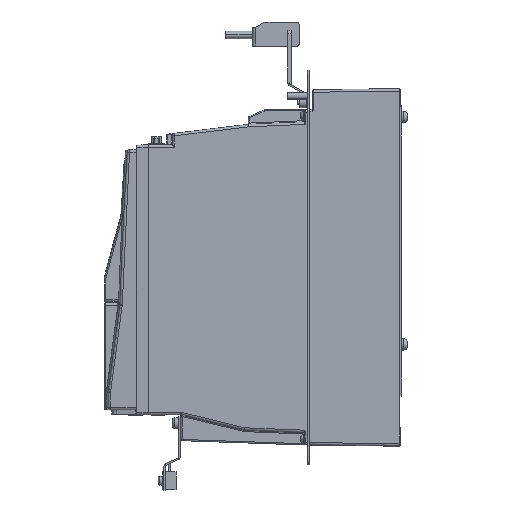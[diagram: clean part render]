
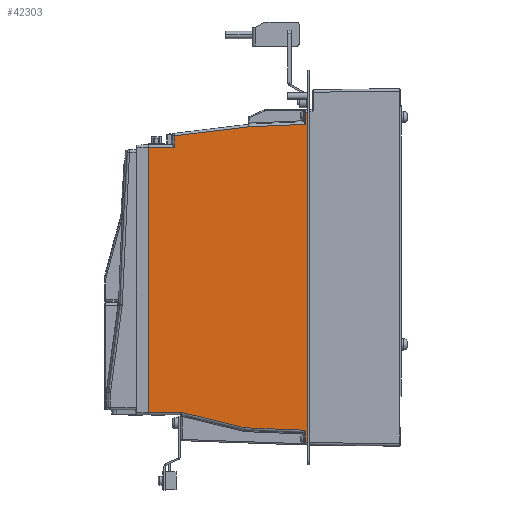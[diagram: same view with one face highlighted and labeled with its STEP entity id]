
A CAD part, left-side view. The second image highlights one B-rep face of the part: STEP entity #42303.
In plain terms, the highlighted planar face has unit normal (-1, 0, 0).
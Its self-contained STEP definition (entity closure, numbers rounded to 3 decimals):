
#39 = DIRECTION ( 'NONE',  ( 0., 0., 1. ) ) ;
#287 = DIRECTION ( 'NONE',  ( 0., 0.999, -0.043 ) ) ;
#477 = ORIENTED_EDGE ( 'NONE', *, *, #32076, .T. ) ;
#907 = CARTESIAN_POINT ( 'NONE',  ( -64., 76.5, -28.98 ) ) ;
#1198 = CARTESIAN_POINT ( 'NONE',  ( -64., 202.8, -289. ) ) ;
#1816 = VECTOR ( 'NONE', #46494, 1000. ) ;
#2430 = ORIENTED_EDGE ( 'NONE', *, *, #48749, .T. ) ;
#2533 = CARTESIAN_POINT ( 'NONE',  ( -64., 202.8, -19. ) ) ;
#2817 = CARTESIAN_POINT ( 'NONE',  ( -64., 76.652, -278.27 ) ) ;
#3994 = CARTESIAN_POINT ( 'NONE',  ( -64., 182.5, -47.5 ) ) ;
#4109 = CARTESIAN_POINT ( 'NONE',  ( -64., 125.536, -275.09 ) ) ;
#4382 = LINE ( 'NONE', #4109, #51022 ) ;
#4495 = CARTESIAN_POINT ( 'NONE',  ( -64., 74.55, 10. ) ) ;
#4876 = LINE ( 'NONE', #43705, #46715 ) ;
#5329 = DIRECTION ( 'NONE',  ( 0., -1., 0. ) ) ;
#6430 = VERTEX_POINT ( 'NONE', #38254 ) ;
#7642 = CARTESIAN_POINT ( 'NONE',  ( -64., 204.2, -262.5 ) ) ;
#8249 = EDGE_CURVE ( 'NONE', #40779, #12690, #40378, .T. ) ;
#8857 = CARTESIAN_POINT ( 'NONE',  ( -64., 76.5, -287. ) ) ;
#9310 = EDGE_CURVE ( 'NONE', #12690, #16473, #16424, .T. ) ;
#9539 = PLANE ( 'NONE',  #42778 ) ;
#9836 = VERTEX_POINT ( 'NONE', #14384 ) ;
#10405 = CARTESIAN_POINT ( 'NONE',  ( -64., 74.55, -287. ) ) ;
#10613 = VECTOR ( 'NONE', #41958, 1000. ) ;
#10716 = VERTEX_POINT ( 'NONE', #8857 ) ;
#11273 = VECTOR ( 'NONE', #13966, 1000. ) ;
#11898 = ORIENTED_EDGE ( 'NONE', *, *, #27678, .T. ) ;
#11986 = EDGE_CURVE ( 'NONE', #36070, #31964, #12548, .T. ) ;
#12548 = LINE ( 'NONE', #33092, #10613 ) ;
#12690 = VERTEX_POINT ( 'NONE', #907 ) ;
#12772 = EDGE_CURVE ( 'NONE', #16473, #36070, #34503, .T. ) ;
#13702 = CARTESIAN_POINT ( 'NONE',  ( -64., 204.2, 0. ) ) ;
#13966 = DIRECTION ( 'NONE',  ( 0., 0., -1. ) ) ;
#14384 = CARTESIAN_POINT ( 'NONE',  ( -64., 177.407, -262.5 ) ) ;
#15130 = EDGE_CURVE ( 'NONE', #29201, #30629, #37664, .T. ) ;
#15646 = ORIENTED_EDGE ( 'NONE', *, *, #30886, .T. ) ;
#15926 = DIRECTION ( 'NONE',  ( 0., 1., 0. ) ) ;
#16424 = LINE ( 'NONE', #16689, #51812 ) ;
#16473 = VERTEX_POINT ( 'NONE', #46446 ) ;
#16689 = CARTESIAN_POINT ( 'NONE',  ( -64., 213.846, -34.952 ) ) ;
#17111 = CARTESIAN_POINT ( 'NONE',  ( -64., 76.92, -277.036 ) ) ;
#18301 = VECTOR ( 'NONE', #39, 1000. ) ;
#18738 = EDGE_CURVE ( 'NONE', #39561, #42205, #30606, .T. ) ;
#19781 = CARTESIAN_POINT ( 'NONE',  ( -64., 76.5, -279.014 ) ) ;
#19863 = VECTOR ( 'NONE', #27638, 1000. ) ;
#23389 = CARTESIAN_POINT ( 'NONE',  ( -64., 76.5, -278.822 ) ) ;
#23711 = CARTESIAN_POINT ( 'NONE',  ( -64., 76.5, -289. ) ) ;
#26185 = DIRECTION ( 'NONE',  ( 0., 0.993, -0.121 ) ) ;
#26216 = DIRECTION ( 'NONE',  ( 0., 0., -1. ) ) ;
#26643 = VECTOR ( 'NONE', #15926, 1000. ) ;
#27638 = DIRECTION ( 'NONE',  ( 0., 0., -1. ) ) ;
#27678 = EDGE_CURVE ( 'NONE', #30629, #54288, #43926, .T. ) ;
#29201 = VERTEX_POINT ( 'NONE', #42646 ) ;
#30007 = CARTESIAN_POINT ( 'NONE',  ( -64., 202.8, -47.5 ) ) ;
#30109 = VECTOR ( 'NONE', #44470, 1000. ) ;
#30358 = CARTESIAN_POINT ( 'NONE',  ( -64., 76.5, -289. ) ) ;
#30376 = DIRECTION ( 'NONE',  ( 1., 0., 0. ) ) ;
#30606 = LINE ( 'NONE', #4495, #18301 ) ;
#30629 = VERTEX_POINT ( 'NONE', #41426 ) ;
#30652 = LINE ( 'NONE', #13702, #37180 ) ;
#30886 = EDGE_CURVE ( 'NONE', #31423, #9836, #43347, .T. ) ;
#30920 = DIRECTION ( 'NONE',  ( 0., 0., 1. ) ) ;
#30928 = FACE_OUTER_BOUND ( 'NONE', #47965, .T. ) ;
#31212 = ORIENTED_EDGE ( 'NONE', *, *, #18738, .T. ) ;
#31423 = VERTEX_POINT ( 'NONE', #7642 ) ;
#31964 = VERTEX_POINT ( 'NONE', #3994 ) ;
#31971 = EDGE_CURVE ( 'NONE', #31423, #6430, #30652, .T. ) ;
#32076 = EDGE_CURVE ( 'NONE', #42205, #40779, #36972, .T. ) ;
#32303 = LINE ( 'NONE', #30007, #26643 ) ;
#33092 = CARTESIAN_POINT ( 'NONE',  ( -64., 182.5, -289. ) ) ;
#34092 = DIRECTION ( 'NONE',  ( 0., -0.972, -0.236 ) ) ;
#34503 = LINE ( 'NONE', #51385, #42492 ) ;
#35284 = CARTESIAN_POINT ( 'NONE',  ( -64., 76.5, -19. ) ) ;
#35692 = ORIENTED_EDGE ( 'NONE', *, *, #12772, .T. ) ;
#35698 = ORIENTED_EDGE ( 'NONE', *, *, #11986, .T. ) ;
#36070 = VERTEX_POINT ( 'NONE', #53682 ) ;
#36192 = VECTOR ( 'NONE', #5329, 1000. ) ;
#36972 = LINE ( 'NONE', #2533, #30109 ) ;
#37180 = VECTOR ( 'NONE', #30920, 1000. ) ;
#37664 = LINE ( 'NONE', #17111, #1816 ) ;
#38254 = CARTESIAN_POINT ( 'NONE',  ( -64., 204.2, -47.5 ) ) ;
#39480 = CARTESIAN_POINT ( 'NONE',  ( -64., 202.8, -262.5 ) ) ;
#39561 = VERTEX_POINT ( 'NONE', #10405 ) ;
#40378 = LINE ( 'NONE', #23711, #19863 ) ;
#40779 = VERTEX_POINT ( 'NONE', #35284 ) ;
#40870 = CARTESIAN_POINT ( 'NONE',  ( -64., 76.733, -278.099 ) ) ;
#41426 = CARTESIAN_POINT ( 'NONE',  ( -64., 77.5, -277.013 ) ) ;
#41958 = DIRECTION ( 'NONE',  ( 0., 0., -1. ) ) ;
#41981 = ORIENTED_EDGE ( 'NONE', *, *, #8249, .T. ) ;
#42205 = VERTEX_POINT ( 'NONE', #54270 ) ;
#42303 = ADVANCED_FACE ( 'NONE', ( #30928 ), #9539, .F. ) ;
#42492 = VECTOR ( 'NONE', #26185, 1000. ) ;
#42555 = LINE ( 'NONE', #30358, #11273 ) ;
#42646 = CARTESIAN_POINT ( 'NONE',  ( -64., 125.725, -275.044 ) ) ;
#42778 = AXIS2_PLACEMENT_3D ( 'NONE', #1198, #30376, #26216 ) ;
#43162 = DIRECTION ( 'NONE',  ( 0., -1., 0. ) ) ;
#43287 = ORIENTED_EDGE ( 'NONE', *, *, #49105, .T. ) ;
#43347 = LINE ( 'NONE', #39480, #36192 ) ;
#43705 = CARTESIAN_POINT ( 'NONE',  ( -64., 202.8, -287. ) ) ;
#43926 = B_SPLINE_CURVE_WITH_KNOTS ( 'NONE', 3,
 ( #48076, #45013, #44475, #40870, #2817, #43936, #23389, #19781 ),
 .UNSPECIFIED., .F., .F.,
 ( 4, 2, 2, 4 ),
 ( 0., 0.001, 0.002, 0.002 ),
 .UNSPECIFIED. ) ;
#43936 = CARTESIAN_POINT ( 'NONE',  ( -64., 76.535, -278.634 ) ) ;
#44229 = ORIENTED_EDGE ( 'NONE', *, *, #47595, .T. ) ;
#44470 = DIRECTION ( 'NONE',  ( 0., 1., 0. ) ) ;
#44475 = CARTESIAN_POINT ( 'NONE',  ( -64., 77.016, -277.606 ) ) ;
#44970 = ORIENTED_EDGE ( 'NONE', *, *, #15130, .T. ) ;
#45013 = CARTESIAN_POINT ( 'NONE',  ( -64., 77.259, -277.308 ) ) ;
#45769 = ORIENTED_EDGE ( 'NONE', *, *, #9310, .T. ) ;
#46446 = CARTESIAN_POINT ( 'NONE',  ( -64., 122.835, -30.995 ) ) ;
#46494 = DIRECTION ( 'NONE',  ( 0., -0.999, -0.041 ) ) ;
#46715 = VECTOR ( 'NONE', #43162, 1000. ) ;
#47595 = EDGE_CURVE ( 'NONE', #9836, #29201, #4382, .T. ) ;
#47965 = EDGE_LOOP ( 'NONE', ( #15646, #44229, #44970, #11898, #43287, #2430, #31212, #477, #41981, #45769, #35692, #35698, #49207, #52419 ) ) ;
#48076 = CARTESIAN_POINT ( 'NONE',  ( -64., 77.5, -277.013 ) ) ;
#48749 = EDGE_CURVE ( 'NONE', #10716, #39561, #4876, .T. ) ;
#49105 = EDGE_CURVE ( 'NONE', #54288, #10716, #42555, .T. ) ;
#49207 = ORIENTED_EDGE ( 'NONE', *, *, #54487, .T. ) ;
#51022 = VECTOR ( 'NONE', #34092, 1000. ) ;
#51385 = CARTESIAN_POINT ( 'NONE',  ( -64., 232.631, -44.384 ) ) ;
#51812 = VECTOR ( 'NONE', #287, 1000. ) ;
#52419 = ORIENTED_EDGE ( 'NONE', *, *, #31971, .F. ) ;
#53089 = CARTESIAN_POINT ( 'NONE',  ( -64., 76.5, -279.014 ) ) ;
#53682 = CARTESIAN_POINT ( 'NONE',  ( -64., 182.5, -38.271 ) ) ;
#54270 = CARTESIAN_POINT ( 'NONE',  ( -64., 74.55, -19. ) ) ;
#54288 = VERTEX_POINT ( 'NONE', #53089 ) ;
#54487 = EDGE_CURVE ( 'NONE', #31964, #6430, #32303, .T. ) ;
